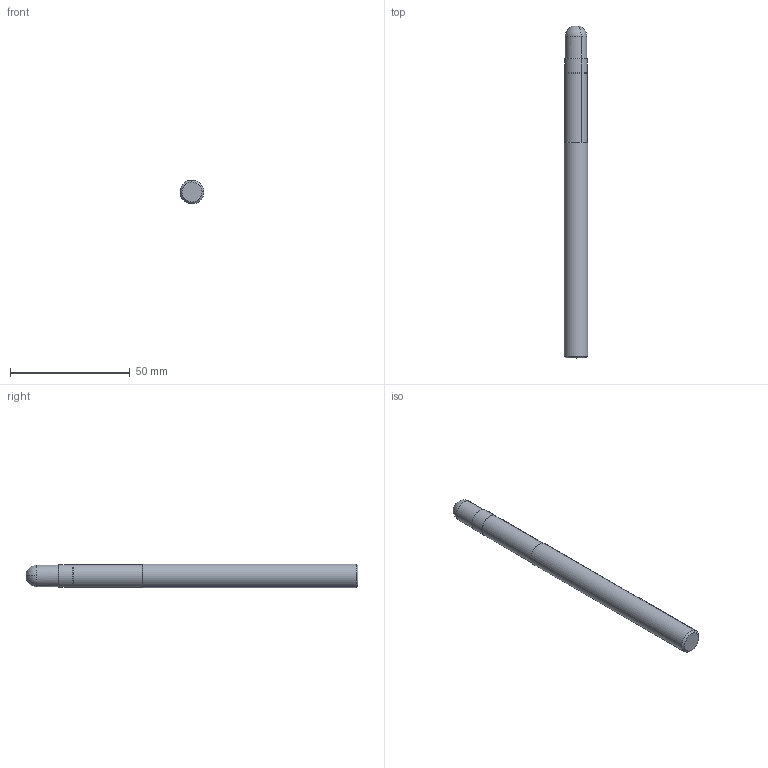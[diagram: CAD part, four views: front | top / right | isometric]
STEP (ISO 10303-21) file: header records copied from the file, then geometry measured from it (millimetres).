
FILE_DESCRIPTION (( 'STEP AP214' ), '1' );
FILE_NAME ('ZBC1002100.STEP', '2021-10-01T01:00:47', ( '' ), ( '' ), 'SwSTEP 2.0', 'SolidWorks 2018', '' );
FILE_SCHEMA (( 'AUTOMOTIVE_DESIGN' ));
Length unit declared in the file: millimetre
Products named in the file (1): ZBC1002100
Bounding box: 10 x 138.4 x 10 mm (x, y, z)
Volume: 10308.6 mm3; surface area: 4609.3 mm2
Topology: 3 solids, 3 shells, 32 faces, 67 edges, 39 vertices
Faces by surface type: cylinder 15, plane 6, sphere 4, bspline 4, cone 3
Entity records: 900 total; most frequent: CARTESIAN_POINT 169, DIRECTION 162, ORIENTED_EDGE 126, AXIS2_PLACEMENT_3D 70, EDGE_CURVE 63, CIRCLE 41, VERTEX_POINT 37, FACE_OUTER_BOUND 32
